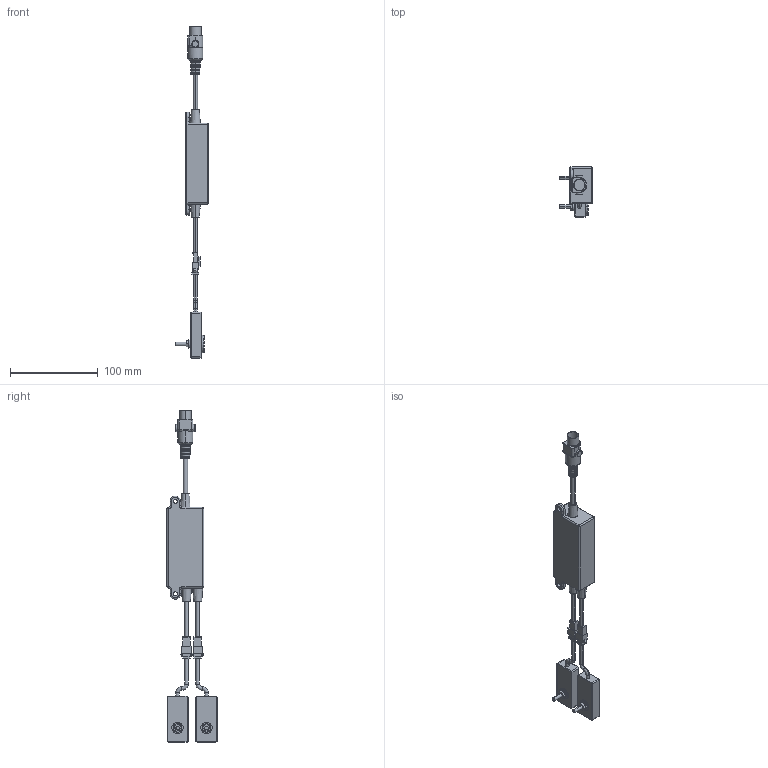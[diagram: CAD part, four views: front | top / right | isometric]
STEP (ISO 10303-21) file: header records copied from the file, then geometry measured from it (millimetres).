
FILE_DESCRIPTION (( 'STEP AP203' ), '1' );
FILE_NAME ('tpsl.STEP', '2022-08-24T08:05:31', ( '' ), ( '' ), 'SwSTEP 2.0', 'SolidWorks 2020', '' );
FILE_SCHEMA (( 'CONFIG_CONTROL_DESIGN' ));
Length unit declared in the file: millimetre
Products named in the file (1): tpsl
Bounding box: 37.6 x 57 x 378.1 mm (x, y, z)
Volume: 152318.2 mm3; surface area: 34898.7 mm2
Topology: 1 solids, 1 shells, 362 faces, 851 edges, 520 vertices
Faces by surface type: plane 182, cylinder 113, torus 49, sphere 10, cone 8
Entity records: 10669 total; most frequent: CARTESIAN_POINT 2129, DIRECTION 1864, ORIENTED_EDGE 1682, EDGE_CURVE 841, AXIS2_PLACEMENT_3D 691, VERTEX_POINT 520, VECTOR 482, LINE 482
